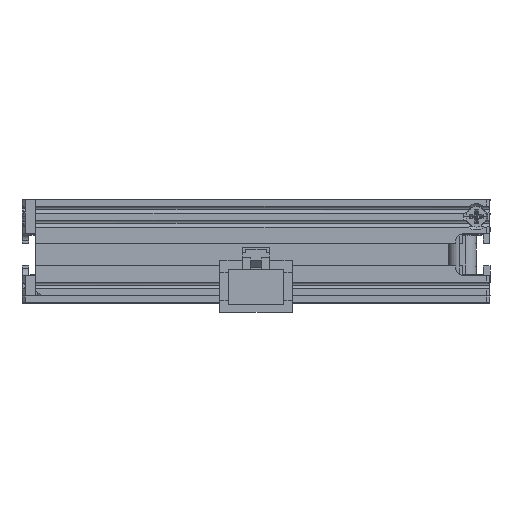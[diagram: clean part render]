
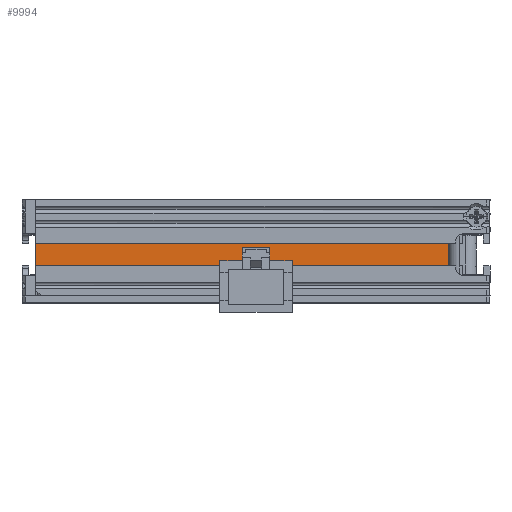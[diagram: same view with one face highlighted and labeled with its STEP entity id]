
A CAD part, top view. The second image highlights one B-rep face of the part: STEP entity #9994.
In plain terms, the highlighted planar face has unit normal (0, 0, 1).
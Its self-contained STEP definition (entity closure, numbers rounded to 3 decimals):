
#566 = DIRECTION ( 'NONE',  ( 0., 1., 0. ) ) ;
#1702 = VECTOR ( 'NONE', #3338, 1000. ) ;
#2424 = ORIENTED_EDGE ( 'NONE', *, *, #26873, .F. ) ;
#3338 = DIRECTION ( 'NONE',  ( 1., 0., 0. ) ) ;
#3757 = EDGE_CURVE ( 'NONE', #28530, #20654, #20612, .T. ) ;
#4956 = DIRECTION ( 'NONE',  ( -1., 0., 0. ) ) ;
#5504 = DIRECTION ( 'NONE',  ( 0., 1., 0. ) ) ;
#5669 = ORIENTED_EDGE ( 'NONE', *, *, #28351, .T. ) ;
#7090 = CARTESIAN_POINT ( 'NONE',  ( 28., 8.65, 23. ) ) ;
#7311 = FACE_OUTER_BOUND ( 'NONE', #19624, .T. ) ;
#7592 = PLANE ( 'NONE',  #25291 ) ;
#9994 = ADVANCED_FACE ( 'NONE', ( #7311 ), #7592, .F. ) ;
#10930 = CARTESIAN_POINT ( 'NONE',  ( -34., 8.65, 23. ) ) ;
#13646 = ORIENTED_EDGE ( 'NONE', *, *, #3757, .F. ) ;
#15294 = DIRECTION ( 'NONE',  ( 0., 0., -1. ) ) ;
#19624 = EDGE_LOOP ( 'NONE', ( #5669, #29358, #13646, #2424 ) ) ;
#20417 = CARTESIAN_POINT ( 'NONE',  ( -32., 5.35, 23. ) ) ;
#20612 = LINE ( 'NONE', #10930, #1702 ) ;
#20654 = VERTEX_POINT ( 'NONE', #7090 ) ;
#20946 = VECTOR ( 'NONE', #566, 1000. ) ;
#21085 = DIRECTION ( 'NONE',  ( 1., 0., 0. ) ) ;
#22916 = VERTEX_POINT ( 'NONE', #20417 ) ;
#23812 = CARTESIAN_POINT ( 'NONE',  ( 28., 5.35, 23. ) ) ;
#24035 = LINE ( 'NONE', #24428, #24868 ) ;
#24094 = CARTESIAN_POINT ( 'NONE',  ( -32., 1., 23. ) ) ;
#24357 = CARTESIAN_POINT ( 'NONE',  ( 28., 5.35, 23. ) ) ;
#24428 = CARTESIAN_POINT ( 'NONE',  ( -34., 5.35, 23. ) ) ;
#24868 = VECTOR ( 'NONE', #21085, 1000. ) ;
#25291 = AXIS2_PLACEMENT_3D ( 'NONE', #31194, #15294, #4956 ) ;
#25920 = LINE ( 'NONE', #24094, #20946 ) ;
#26873 = EDGE_CURVE ( 'NONE', #22916, #28530, #25920, .T. ) ;
#28254 = CARTESIAN_POINT ( 'NONE',  ( -32., 8.65, 23. ) ) ;
#28351 = EDGE_CURVE ( 'NONE', #22916, #33798, #24035, .T. ) ;
#28530 = VERTEX_POINT ( 'NONE', #28254 ) ;
#28834 = EDGE_CURVE ( 'NONE', #33798, #20654, #29386, .T. ) ;
#29358 = ORIENTED_EDGE ( 'NONE', *, *, #28834, .T. ) ;
#29386 = LINE ( 'NONE', #23812, #31418 ) ;
#31194 = CARTESIAN_POINT ( 'NONE',  ( -34., 5.35, 23. ) ) ;
#31418 = VECTOR ( 'NONE', #5504, 1000. ) ;
#33798 = VERTEX_POINT ( 'NONE', #24357 ) ;
